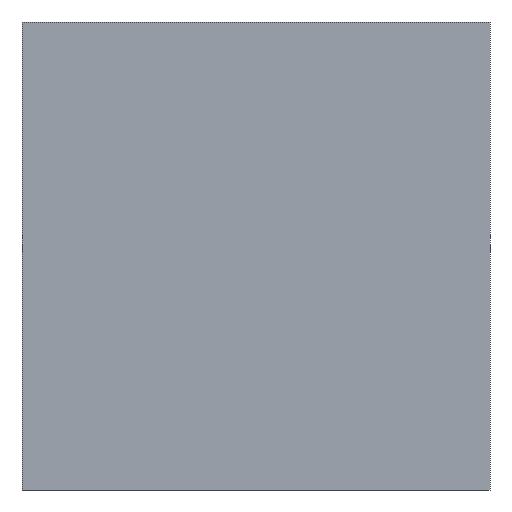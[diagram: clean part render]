
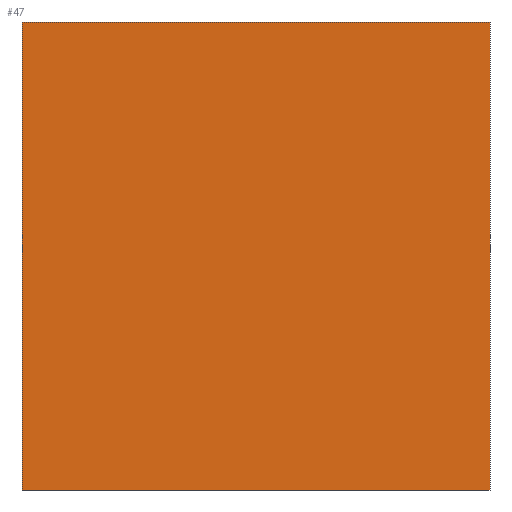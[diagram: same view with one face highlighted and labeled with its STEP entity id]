
A CAD part, left-side view. The second image highlights one B-rep face of the part: STEP entity #47.
In plain terms, the highlighted planar face has unit normal (-1, 0, 0).
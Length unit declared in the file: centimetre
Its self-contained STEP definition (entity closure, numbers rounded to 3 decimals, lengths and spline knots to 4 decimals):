
#17 = CARTESIAN_POINT ( 'NONE',  ( 0., 1000., 0. ) ) ;
#18 = LINE ( 'NONE', #186, #91 ) ;
#19 = DIRECTION ( 'NONE',  ( 0., -1., 0. ) ) ;
#38 = VERTEX_POINT ( 'NONE', #127 ) ;
#47 = ADVANCED_FACE ( 'NONE', ( #260 ), #339, .F. ) ;
#71 = EDGE_CURVE ( 'NONE', #223, #142, #18, .T. ) ;
#91 = VECTOR ( 'NONE', #264, 100. ) ;
#100 = VECTOR ( 'NONE', #416, 100. ) ;
#119 = CARTESIAN_POINT ( 'NONE',  ( 0., 1000., 1000. ) ) ;
#127 = CARTESIAN_POINT ( 'NONE',  ( 0., 0., 1000. ) ) ;
#141 = LINE ( 'NONE', #17, #350 ) ;
#142 = VERTEX_POINT ( 'NONE', #222 ) ;
#153 = LINE ( 'NONE', #378, #163 ) ;
#163 = VECTOR ( 'NONE', #233, 100. ) ;
#186 = CARTESIAN_POINT ( 'NONE',  ( 0., 1000., 1000. ) ) ;
#200 = ORIENTED_EDGE ( 'NONE', *, *, #432, .F. ) ;
#206 = ORIENTED_EDGE ( 'NONE', *, *, #328, .F. ) ;
#212 = ORIENTED_EDGE ( 'NONE', *, *, #244, .T. ) ;
#222 = CARTESIAN_POINT ( 'NONE',  ( 0., 1000., 0. ) ) ;
#223 = VERTEX_POINT ( 'NONE', #119 ) ;
#230 = EDGE_LOOP ( 'NONE', ( #212, #206, #200, #262 ) ) ;
#233 = DIRECTION ( 'NONE',  ( 0., 0., -1. ) ) ;
#244 = EDGE_CURVE ( 'NONE', #142, #360, #141, .T. ) ;
#257 = DIRECTION ( 'NONE',  ( 0., 0., -1. ) ) ;
#259 = CARTESIAN_POINT ( 'NONE',  ( 0., 0., 0. ) ) ;
#260 = FACE_OUTER_BOUND ( 'NONE', #230, .T. ) ;
#262 = ORIENTED_EDGE ( 'NONE', *, *, #71, .T. ) ;
#264 = DIRECTION ( 'NONE',  ( 0., 0., -1. ) ) ;
#311 = CARTESIAN_POINT ( 'NONE',  ( 0., 1000., 1000. ) ) ;
#328 = EDGE_CURVE ( 'NONE', #38, #360, #153, .T. ) ;
#339 = PLANE ( 'NONE',  #407 ) ;
#341 = CARTESIAN_POINT ( 'NONE',  ( 0., 1000., 1000. ) ) ;
#350 = VECTOR ( 'NONE', #19, 100. ) ;
#360 = VERTEX_POINT ( 'NONE', #259 ) ;
#375 = DIRECTION ( 'NONE',  ( 1., 0., 0. ) ) ;
#378 = CARTESIAN_POINT ( 'NONE',  ( 0., 0., 1000. ) ) ;
#407 = AXIS2_PLACEMENT_3D ( 'NONE', #341, #375, #257 ) ;
#416 = DIRECTION ( 'NONE',  ( 0., -1., 0. ) ) ;
#418 = LINE ( 'NONE', #311, #100 ) ;
#432 = EDGE_CURVE ( 'NONE', #223, #38, #418, .T. ) ;
